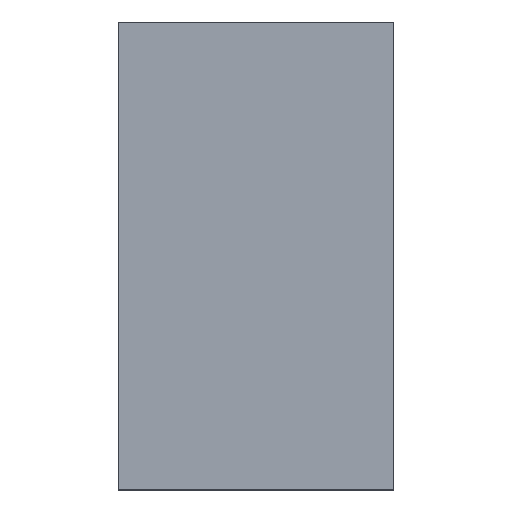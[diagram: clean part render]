
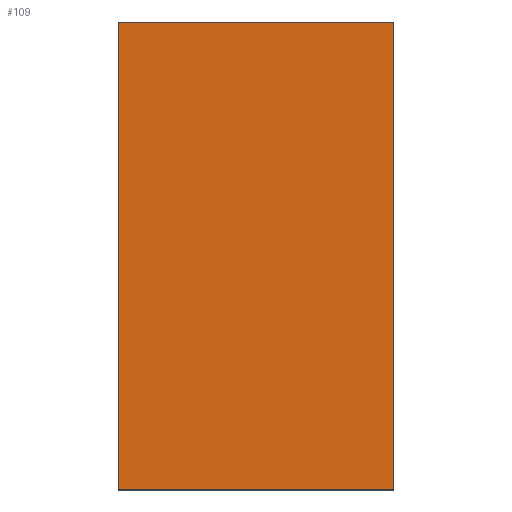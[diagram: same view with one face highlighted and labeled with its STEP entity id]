
A CAD part, top view. The second image highlights one B-rep face of the part: STEP entity #109.
In plain terms, the highlighted planar face has unit normal (0, 0, 1).
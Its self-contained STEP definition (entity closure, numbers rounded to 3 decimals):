
#23=FACE_OUTER_BOUND('',#29,.T.);
#29=EDGE_LOOP('',(#91,#92,#93,#94));
#33=LINE('',#172,#45);
#36=LINE('',#178,#48);
#39=LINE('',#184,#51);
#42=LINE('',#188,#54);
#45=VECTOR('',#141,10.);
#48=VECTOR('',#146,10.);
#51=VECTOR('',#151,10.);
#54=VECTOR('',#156,10.);
#57=VERTEX_POINT('',#169);
#58=VERTEX_POINT('',#171);
#60=VERTEX_POINT('',#177);
#62=VERTEX_POINT('',#183);
#65=EDGE_CURVE('',#58,#57,#33,.T.);
#68=EDGE_CURVE('',#60,#58,#36,.T.);
#71=EDGE_CURVE('',#62,#60,#39,.T.);
#74=EDGE_CURVE('',#57,#62,#42,.T.);
#91=ORIENTED_EDGE('',*,*,#74,.T.);
#92=ORIENTED_EDGE('',*,*,#71,.T.);
#93=ORIENTED_EDGE('',*,*,#68,.T.);
#94=ORIENTED_EDGE('',*,*,#65,.T.);
#103=PLANE('',#130);
#109=ADVANCED_FACE('',(#23),#103,.T.);
#130=AXIS2_PLACEMENT_3D('',#189,#157,#158);
#141=DIRECTION('',(-1.,0.,0.));
#146=DIRECTION('',(0.,1.,0.));
#151=DIRECTION('',(1.,0.,0.));
#156=DIRECTION('',(0.,-1.,0.));
#157=DIRECTION('center_axis',(0.,0.,1.));
#158=DIRECTION('ref_axis',(1.,0.,0.));
#169=CARTESIAN_POINT('',(67.374,665.97,-125.));
#171=CARTESIAN_POINT('',(386.507,665.97,-125.));
#172=CARTESIAN_POINT('',(386.507,665.97,-125.));
#177=CARTESIAN_POINT('',(386.507,123.685,-125.));
#178=CARTESIAN_POINT('',(386.507,123.685,-125.));
#183=CARTESIAN_POINT('',(67.374,123.685,-125.));
#184=CARTESIAN_POINT('',(67.374,123.685,-125.));
#188=CARTESIAN_POINT('',(67.374,665.97,-125.));
#189=CARTESIAN_POINT('Origin',(226.941,394.828,-125.));
